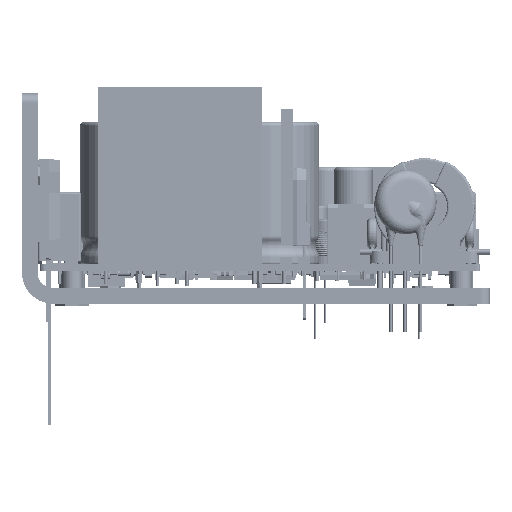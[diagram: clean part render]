
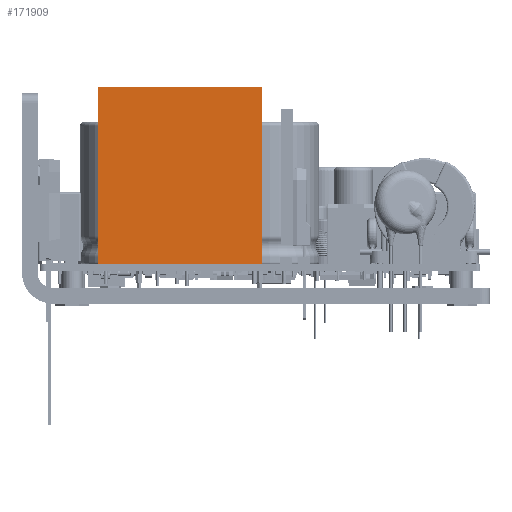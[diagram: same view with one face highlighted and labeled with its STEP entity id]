
A CAD part, left-side view. The second image highlights one B-rep face of the part: STEP entity #171909.
In plain terms, the highlighted planar face has unit normal (-1, 0, 0) as drawn and (0, 1, 0) by its records, which use the part's own axes.
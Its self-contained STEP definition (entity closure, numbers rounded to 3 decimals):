
#171909 = ADVANCED_FACE('',(#171910),#171944,.T.);
#171910 = FACE_BOUND('',#171911,.T.);
#171911 = EDGE_LOOP('',(#171912,#171922,#171930,#171938));
#171912 = ORIENTED_EDGE('',*,*,#171913,.T.);
#171913 = EDGE_CURVE('',#171914,#171916,#171918,.T.);
#171914 = VERTEX_POINT('',#171915);
#171915 = CARTESIAN_POINT('',(-1.95,37.78,0.));
#171916 = VERTEX_POINT('',#171917);
#171917 = CARTESIAN_POINT('',(-1.95,37.78,45.3));
#171918 = LINE('',#171919,#171920);
#171919 = CARTESIAN_POINT('',(-1.95,37.78,0.));
#171920 = VECTOR('',#171921,1.);
#171921 = DIRECTION('',(0.,0.,1.));
#171922 = ORIENTED_EDGE('',*,*,#171923,.T.);
#171923 = EDGE_CURVE('',#171916,#171924,#171926,.T.);
#171924 = VERTEX_POINT('',#171925);
#171925 = CARTESIAN_POINT('',(40.05,37.78,45.3));
#171926 = LINE('',#171927,#171928);
#171927 = CARTESIAN_POINT('',(-1.95,37.78,45.3));
#171928 = VECTOR('',#171929,1.);
#171929 = DIRECTION('',(1.,0.,0.));
#171930 = ORIENTED_EDGE('',*,*,#171931,.F.);
#171931 = EDGE_CURVE('',#171932,#171924,#171934,.T.);
#171932 = VERTEX_POINT('',#171933);
#171933 = CARTESIAN_POINT('',(40.05,37.78,0.));
#171934 = LINE('',#171935,#171936);
#171935 = CARTESIAN_POINT('',(40.05,37.78,0.));
#171936 = VECTOR('',#171937,1.);
#171937 = DIRECTION('',(0.,0.,1.));
#171938 = ORIENTED_EDGE('',*,*,#171939,.F.);
#171939 = EDGE_CURVE('',#171914,#171932,#171940,.T.);
#171940 = LINE('',#171941,#171942);
#171941 = CARTESIAN_POINT('',(-1.95,37.78,0.));
#171942 = VECTOR('',#171943,1.);
#171943 = DIRECTION('',(1.,0.,0.));
#171944 = PLANE('',#171945);
#171945 = AXIS2_PLACEMENT_3D('',#171946,#171947,#171948);
#171946 = CARTESIAN_POINT('',(-1.95,37.78,0.));
#171947 = DIRECTION('',(0.,1.,0.));
#171948 = DIRECTION('',(1.,0.,0.));
